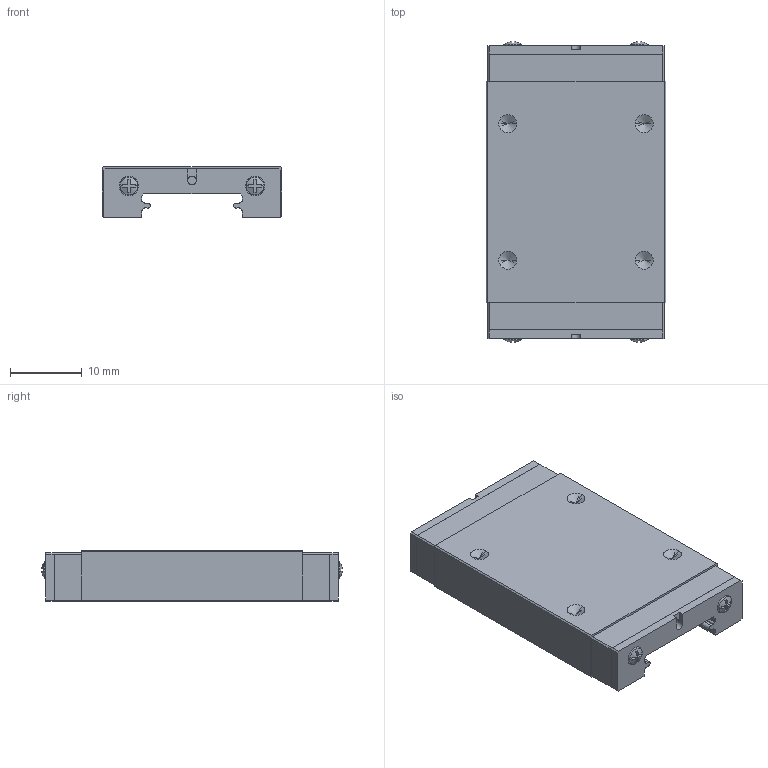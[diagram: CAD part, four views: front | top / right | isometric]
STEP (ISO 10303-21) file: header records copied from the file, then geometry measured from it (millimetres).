
FILE_DESCRIPTION(('no description'),'unknown implementation level');
FILE_NAME('MGW07H_ZF_H_M_SS_50.stp',' ',('HIWIN GmbH'),('CADClick - KiM GmbH - www.kimweb.de'),'unknown preprocess','ACIS','unknown authorization');
FILE_SCHEMA(('automotive_design'));
Length unit declared in the file: millimetre
Products named in the file (1): MGW07H ZF H M SS
Bounding box: 25 x 41.99 x 7.1 mm (x, y, z)
Volume: 5317.8 mm3; surface area: 3350.2 mm2
Topology: 1 solids, 3 shells, 202 faces, 544 edges, 352 vertices
Faces by surface type: plane 130, cylinder 44, cone 28
Entity records: 12248 total; most frequent: CARTESIAN_POINT 1203, STYLED_ITEM 1091, PRESENTATION_STYLE_ASSIGNMENT 1091, COLOUR_RGB 1091, ORIENTED_EDGE 1072, DIRECTION 994, EDGE_CURVE 536, CURVE_STYLE 536
